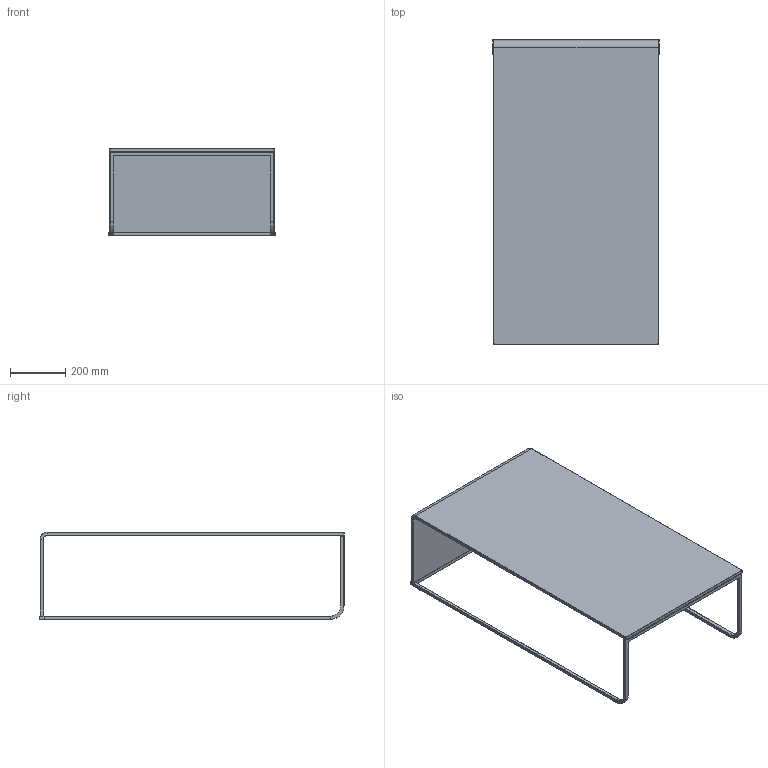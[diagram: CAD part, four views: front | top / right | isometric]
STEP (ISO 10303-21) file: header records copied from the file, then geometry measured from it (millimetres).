
FILE_DESCRIPTION((''),'2;1');
FILE_NAME('C:\AutodeskVault\AreaLavoro\Progetti\SoVeT Italia\2. Tavolini_Coffee tables\Nido\Web file\Nido Web\P4576.stp','2012-06-13T16:49:03',('Gianluca'),('So.Ve.T. s.r.l.'),'Autodesk Inventor 2013','Autodesk Inventor 2013','IL PROGETTO E'' DI ESCLUSIVA PROPRIETA'' DELLA SO.VE.T. srl. E'' VIETATA OGNI RIPRODUZIONE TOTALE O PARZIALE E QUALSIASI UTILIZZO NON AUTORIZZATO.');
FILE_SCHEMA(('AUTOMOTIVE_DESIGN { 1 0 10303 214 1 1 1 1 }'));
Length unit declared in the file: millimetre
Products named in the file (1): P4576 TR Contorno semplificato
Bounding box: 600.04 x 1100.97 x 316.5 mm (x, y, z)
Volume: 10450677.3 mm3; surface area: 1861426.1 mm2
Topology: 1 solids, 1 shells, 146 faces, 337 edges, 182 vertices
Faces by surface type: plane 65, cylinder 45, cone 12, torus 12, sphere 8, bspline 4
Full cylindrical faces by diameter (mm): 12 x2
Entity records: 4241 total; most frequent: CARTESIAN_POINT 806, DIRECTION 713, ORIENTED_EDGE 638, EDGE_CURVE 319, AXIS2_PLACEMENT_3D 257, VECTOR 199, LINE 199, VERTEX_POINT 180
